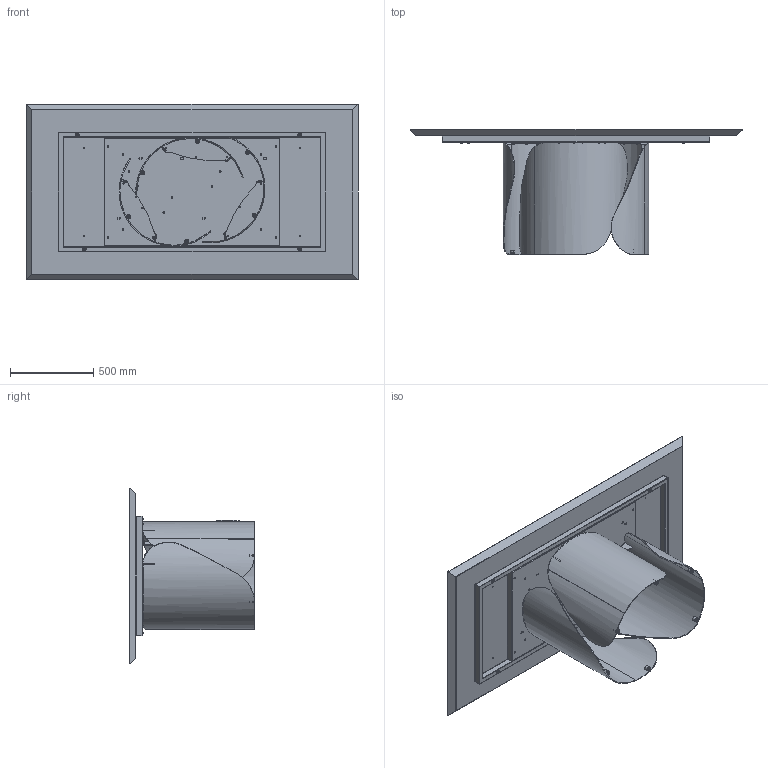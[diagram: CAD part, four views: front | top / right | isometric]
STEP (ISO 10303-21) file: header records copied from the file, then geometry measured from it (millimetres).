
FILE_DESCRIPTION (( 'STEP AP203' ), '1' );
FILE_NAME ('ON21W.STEP', '2024-08-06T13:50:59', ( '' ), ( '' ), 'SwSTEP 2.0', 'SolidWorks 2022', '' );
FILE_SCHEMA (( 'CONFIG_CONTROL_DESIGN' ));
Length unit declared in the file: millimetre
Products named in the file (15): PIEDINO PER ONDA; rondella M8_8X24; W2XCMXX-00-Piani Rettangolari in legno_2000 x 1060; OND000000_03-00-LAMIERA CURVATA PRINCIPALE_OND00000X-00-ONDA BASE GREZZA PROTOTIPO; OND000000-03-ONDA BASE GREZZA; TTAV0601_01-00-STRUTTURA X TAVOLI PLAI ONDA NOA 240; COLLO TELAIO UNIVERSALE TTAV0601 CON FERRAMENTA_FERRAMENTA MTG TOP LEGNO-MARMO-KING; ON21W; OND000000_02-00-CILINDRO DI FISSAGGIO Ø25X17 M8; COLLO BASE ONDA SINGOLA CON FERRAMENTA; M8xXXmm_M8x20mm; TTAV0601-00-TELAIO X TAVOLI PLAI ONDA NOA 240cm_TTAV06; OND000000_01-00-PIASTRA SUPERIORE BASE ONDA; TTAV0601_02-00-VASSOIO TAVOLI PLAI ONDA NOA 240; M8xXXmm_M8x55mm
Assembly tree (47 placements, depth 4):
  ON21W
    COLLO TELAIO UNIVERSALE TTAV0601 CON FERRAMENTA_FERRAMENTA MTG TOP LEGNO-MARMO-KING
      TTAV0601-00-TELAIO X TAVOLI PLAI ONDA NOA 240cm_TTAV06
        TTAV0601_02-00-VASSOIO TAVOLI PLAI ONDA NOA 240
        TTAV0601_01-00-STRUTTURA X TAVOLI PLAI ONDA NOA 240
      rondella M8_8X24  x4
      M8xXXmm_M8x55mm  x4
    COLLO BASE ONDA SINGOLA CON FERRAMENTA  x3
      OND000000-03-ONDA BASE GREZZA
        OND000000_03-00-LAMIERA CURVATA PRINCIPALE_OND00000X-00-ONDA BASE GREZZA PROTOTIPO
        OND000000_01-00-PIASTRA SUPERIORE BASE ONDA
        OND000000_02-00-CILINDRO DI FISSAGGIO Ø25X17 M8  x2
      PIEDINO PER ONDA
    rondella M8_8X24  x12
    M8xXXmm_M8x20mm  x12
    W2XCMXX-00-Piani Rettangolari in legno_2000 x 1060
Bounding box: 2000 x 754 x 1060 mm (x, y, z)
Volume: 89739207.3 mm3; surface area: 10639790.5 mm2
Topology: 59 solids, 59 shells, 1735 faces, 3959 edges, 2353 vertices
Faces by surface type: plane 626, cylinder 539, cone 286, torus 216, bspline 60, sphere 8
Entity records: 23798 total; most frequent: CARTESIAN_POINT 5323, DIRECTION 3479, ORIENTED_EDGE 3198, EDGE_CURVE 1599, AXIS2_PLACEMENT_3D 1309, VERTEX_POINT 977, VECTOR 861, LINE 861
